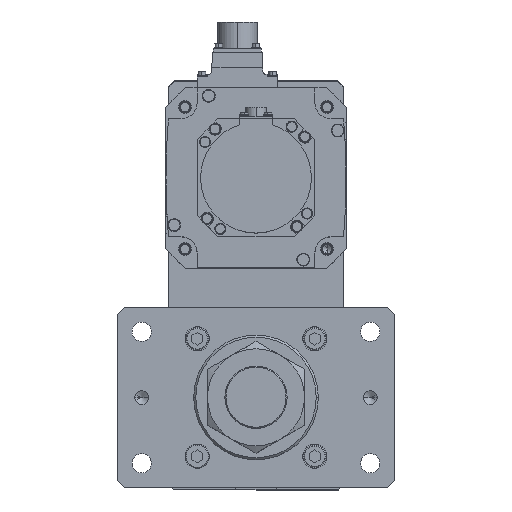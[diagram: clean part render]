
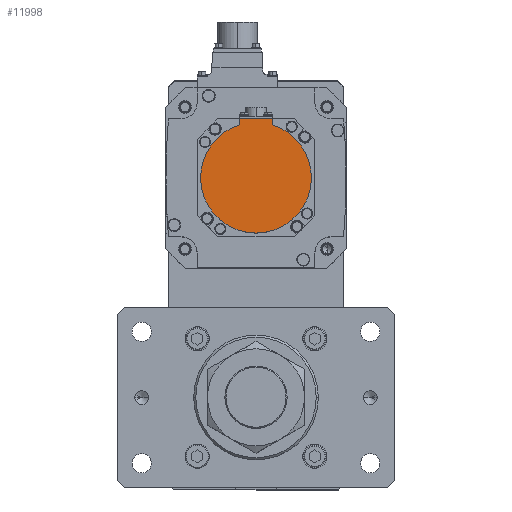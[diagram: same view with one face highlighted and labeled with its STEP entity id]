
A CAD part, top view. The second image highlights one B-rep face of the part: STEP entity #11998.
In plain terms, the highlighted planar face has unit normal (0, 0, 1) as drawn and (0, 0, -1) by its records, which use the part's own axes.
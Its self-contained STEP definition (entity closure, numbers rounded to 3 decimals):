
#455 = CARTESIAN_POINT ( 'NONE',  ( -12., -42.5, -146.5 ) ) ;
#577 = DIRECTION ( 'NONE',  ( 1., 0., 0. ) ) ;
#1022 = FACE_OUTER_BOUND ( 'NONE', #5662, .T. ) ;
#1880 = CARTESIAN_POINT ( 'NONE',  ( 12., -38.158, -146.5 ) ) ;
#3591 = PLANE ( 'NONE',  #19830 ) ;
#4728 = VERTEX_POINT ( 'NONE', #455 ) ;
#5632 = CARTESIAN_POINT ( 'NONE',  ( -12., -40.329, -146.5 ) ) ;
#5662 = EDGE_LOOP ( 'NONE', ( #11595, #22022, #9043, #21620, #29719, #20098 ) ) ;
#6072 = CARTESIAN_POINT ( 'NONE',  ( 0., 0., -146.5 ) ) ;
#6258 = DIRECTION ( 'NONE',  ( 0., 0., 1. ) ) ;
#9043 = ORIENTED_EDGE ( 'NONE', *, *, #17039, .F. ) ;
#9181 = CARTESIAN_POINT ( 'NONE',  ( 0., -1.249, -146.5 ) ) ;
#9649 = AXIS2_PLACEMENT_3D ( 'NONE', #33873, #12464, #17393 ) ;
#9824 = EDGE_CURVE ( 'NONE', #22767, #4728, #21580, .T. ) ;
#10459 = VERTEX_POINT ( 'NONE', #1880 ) ;
#11085 = VERTEX_POINT ( 'NONE', #24839 ) ;
#11522 = VECTOR ( 'NONE', #18317, 1000. ) ;
#11595 = ORIENTED_EDGE ( 'NONE', *, *, #16152, .T. ) ;
#11998 = ADVANCED_FACE ( 'NONE', ( #1022 ), #3591, .F. ) ;
#12464 = DIRECTION ( 'NONE',  ( 0., 0., 1. ) ) ;
#13543 = CARTESIAN_POINT ( 'NONE',  ( 0., 0., -146.5 ) ) ;
#14000 = DIRECTION ( 'NONE',  ( 0., 0., 1. ) ) ;
#14833 = CIRCLE ( 'NONE', #18818, 40. ) ;
#14957 = CARTESIAN_POINT ( 'NONE',  ( -12., -38.158, -146.5 ) ) ;
#15371 = DIRECTION ( 'NONE',  ( 0., 1., 0. ) ) ;
#15788 = DIRECTION ( 'NONE',  ( 0., 1., 0. ) ) ;
#16152 = EDGE_CURVE ( 'NONE', #4728, #27669, #19424, .T. ) ;
#16201 = EDGE_CURVE ( 'NONE', #10459, #17023, #14833, .T. ) ;
#17023 = VERTEX_POINT ( 'NONE', #25583 ) ;
#17039 = EDGE_CURVE ( 'NONE', #17023, #11085, #17687, .T. ) ;
#17393 = DIRECTION ( 'NONE',  ( 1., 0., 0. ) ) ;
#17687 = CIRCLE ( 'NONE', #9649, 40. ) ;
#18317 = DIRECTION ( 'NONE',  ( -1., 0., 0. ) ) ;
#18818 = AXIS2_PLACEMENT_3D ( 'NONE', #13543, #32268, #23988 ) ;
#19424 = LINE ( 'NONE', #5632, #32422 ) ;
#19561 = LINE ( 'NONE', #20649, #31728 ) ;
#19830 = AXIS2_PLACEMENT_3D ( 'NONE', #9181, #6258, #22372 ) ;
#20098 = ORIENTED_EDGE ( 'NONE', *, *, #9824, .T. ) ;
#20649 = CARTESIAN_POINT ( 'NONE',  ( 12., -1.249, -146.5 ) ) ;
#20726 = EDGE_CURVE ( 'NONE', #22767, #10459, #19561, .T. ) ;
#21580 = LINE ( 'NONE', #34307, #11522 ) ;
#21620 = ORIENTED_EDGE ( 'NONE', *, *, #16201, .F. ) ;
#21763 = CIRCLE ( 'NONE', #29046, 40. ) ;
#22022 = ORIENTED_EDGE ( 'NONE', *, *, #22705, .F. ) ;
#22372 = DIRECTION ( 'NONE',  ( 1., 0., 0. ) ) ;
#22705 = EDGE_CURVE ( 'NONE', #11085, #27669, #21763, .T. ) ;
#22767 = VERTEX_POINT ( 'NONE', #24879 ) ;
#23988 = DIRECTION ( 'NONE',  ( 1., 0., 0. ) ) ;
#24839 = CARTESIAN_POINT ( 'NONE',  ( -40., 0., -146.5 ) ) ;
#24879 = CARTESIAN_POINT ( 'NONE',  ( 12., -42.5, -146.5 ) ) ;
#25583 = CARTESIAN_POINT ( 'NONE',  ( 40., 0., -146.5 ) ) ;
#27669 = VERTEX_POINT ( 'NONE', #14957 ) ;
#29046 = AXIS2_PLACEMENT_3D ( 'NONE', #6072, #14000, #577 ) ;
#29719 = ORIENTED_EDGE ( 'NONE', *, *, #20726, .F. ) ;
#31728 = VECTOR ( 'NONE', #15371, 1000. ) ;
#32268 = DIRECTION ( 'NONE',  ( 0., 0., 1. ) ) ;
#32422 = VECTOR ( 'NONE', #15788, 1000. ) ;
#33873 = CARTESIAN_POINT ( 'NONE',  ( 0., 0., -146.5 ) ) ;
#34307 = CARTESIAN_POINT ( 'NONE',  ( 0., -42.5, -146.5 ) ) ;
